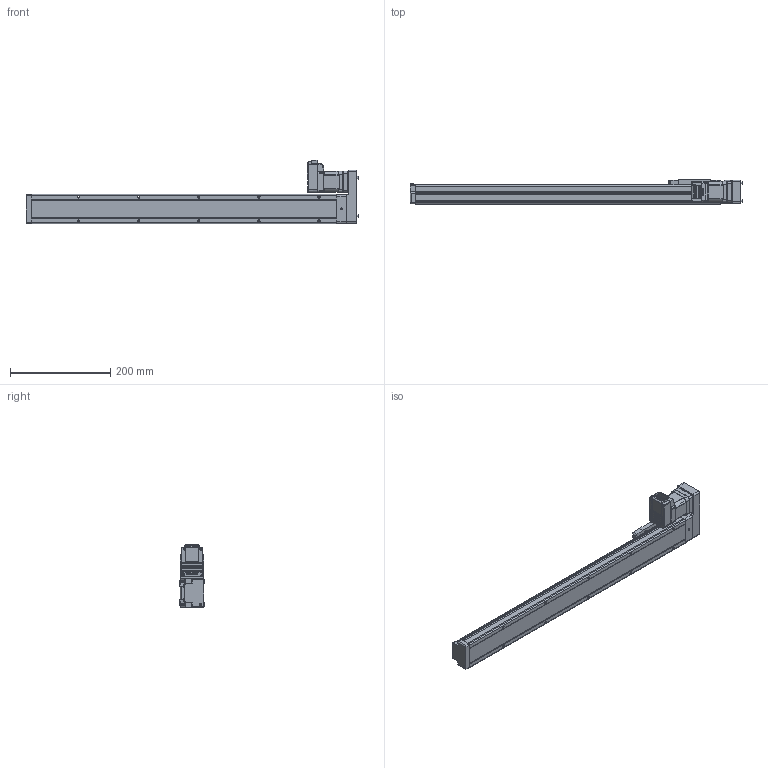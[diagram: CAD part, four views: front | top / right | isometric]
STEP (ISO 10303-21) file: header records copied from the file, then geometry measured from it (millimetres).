
FILE_DESCRIPTION (( 'STEP AP214' ), '1' );
FILE_NAME ('LEFS3(+)-25LNM1□-500-17L.STEP', '2023-05-31T05:02:09', ( '' ), ( '' ), 'SwSTEP 2.0', 'SolidWorks 2019', '' );
FILE_SCHEMA (( 'AUTOMOTIVE_DESIGN' ));
Length unit declared in the file: millimetre
Products named in the file (5): LEFS3(+)-25LNM1□-500-17L; LEFS3(+)-25R(L)NM1仩_MOTOR Flange; CM3(+)-17L50A; LEFS3(+)-25NM1_TABLE; LEFS3(+)-25R(L)NM1仩_BODY_500
Assembly tree (4 placements, depth 2):
  LEFS3(+)-25LNM1□-500-17L
    LEFS3(+)-25R(L)NM1仩_BODY_500
    LEFS3(+)-25NM1_TABLE
    LEFS3(+)-25R(L)NM1仩_MOTOR Flange
    CM3(+)-17L50A
Bounding box: 662.9 x 48 x 125.85 mm (x, y, z)
Volume: 1486119.4 mm3; surface area: 192855.1 mm2
Topology: 5 solids, 5 shells, 1023 faces, 2632 edges, 1660 vertices
Faces by surface type: plane 529, cylinder 322, cone 83, torus 39, bspline 29, sphere 21
Entity records: 41809 total; most frequent: CARTESIAN_POINT 7506, ORIENTED_EDGE 5202, DIRECTION 5028, EDGE_CURVE 2601, AXIS2_PLACEMENT_3D 1694, VERTEX_POINT 1660, LINE 1640, VECTOR 1640
